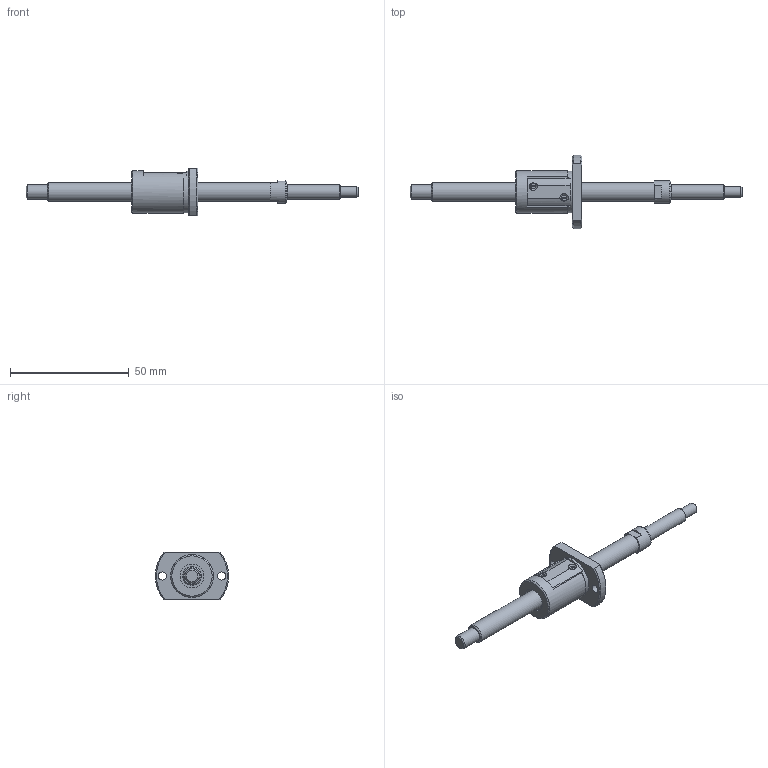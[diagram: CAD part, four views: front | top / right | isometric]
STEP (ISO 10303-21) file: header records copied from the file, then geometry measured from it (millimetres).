
FILE_DESCRIPTION(/* description */ ('STEP AP214'),/* implementation_level */ '2;1');
FILE_NAME(/* name */ 'SG0805-090R140C5C0X(35.5)',/* time_stamp */ '2026-07-21T16:51:28+02:00',/* author */ ('License CC BY-ND 4.0'),/* organization */ ('CADENAS'),/* preprocessor_version */ 'ST-DEVELOPER v20',/* originating_system */ 'PARTsolutions',/* authorisation */ ' ');
FILE_SCHEMA (('AUTOMOTIVE_DESIGN {1 0 10303 214 3 1 1}'));
Length unit declared in the file: millimetre
Products named in the file (3): SG0805-090R140C5C0X(35.5); SG0805-90R140C5C_shaft; SG0805 C5_nut
Assembly tree (2 placements, depth 2):
  SG0805-090R140C5C0X(35.5)
    SG0805-90R140C5C_shaft
    SG0805 C5_nut
Bounding box: 140 x 30.91 x 20 mm (x, y, z)
Volume: 12893.1 mm3; surface area: 6915.5 mm2
Topology: 2 solids, 2 shells, 75 faces, 182 edges, 119 vertices
Faces by surface type: plane 36, cylinder 24, cone 14, torus 1
Full cylindrical faces by diameter (mm): 3.4 x2, 4.5 x1, 6 x2, 8 x2, 9.5 x1, 10 x2, 17.7 x1, 18 x1
Entity records: 2117 total; most frequent: CARTESIAN_POINT 396, DIRECTION 358, ORIENTED_EDGE 298, EDGE_CURVE 149, AXIS2_PLACEMENT_3D 149, EDGE_LOOP 112, FACE_BOUND 112, VERTEX_POINT 109
